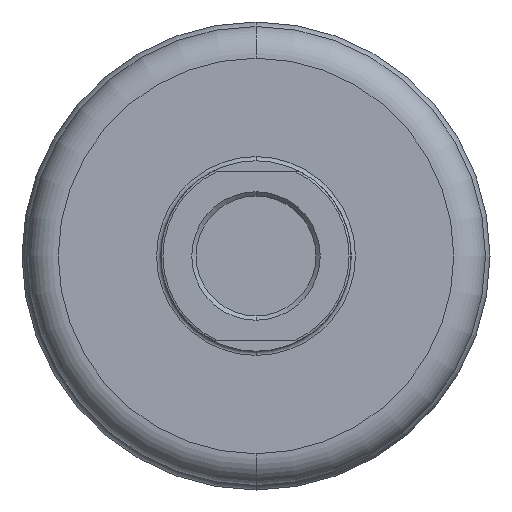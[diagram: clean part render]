
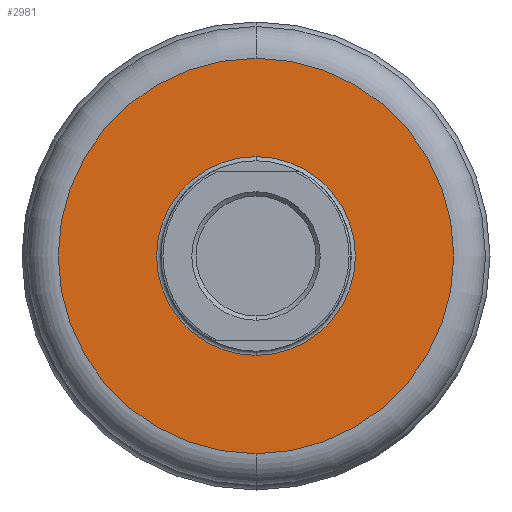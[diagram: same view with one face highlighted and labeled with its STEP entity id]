
A CAD part, front view. The second image highlights one B-rep face of the part: STEP entity #2981.
In plain terms, the highlighted planar face has unit normal (0, -1, 0).
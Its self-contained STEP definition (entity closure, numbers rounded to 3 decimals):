
#86 = VERTEX_POINT ( 'NONE', #7090 ) ;
#374 = DIRECTION ( 'NONE',  ( 0., 1., 0. ) ) ;
#484 = CARTESIAN_POINT ( 'NONE',  ( -47., 20., 0. ) ) ;
#552 = ORIENTED_EDGE ( 'NONE', *, *, #1165, .F. ) ;
#588 = ORIENTED_EDGE ( 'NONE', *, *, #2382, .T. ) ;
#614 = CARTESIAN_POINT ( 'NONE',  ( 0., 20., 0. ) ) ;
#978 = AXIS2_PLACEMENT_3D ( 'NONE', #3168, #2329, #6965 ) ;
#1165 = EDGE_CURVE ( 'NONE', #2860, #5279, #2038, .T. ) ;
#1711 = DIRECTION ( 'NONE',  ( 0., -1., 0. ) ) ;
#2038 = CIRCLE ( 'NONE', #3211, 93.5 ) ;
#2329 = DIRECTION ( 'NONE',  ( 0., 1., 0. ) ) ;
#2382 = EDGE_CURVE ( 'NONE', #86, #3681, #4190, .T. ) ;
#2591 = CARTESIAN_POINT ( 'NONE',  ( 0., 20., -47. ) ) ;
#2620 = ORIENTED_EDGE ( 'NONE', *, *, #4900, .F. ) ;
#2748 = CARTESIAN_POINT ( 'NONE',  ( 0., 20., -93.5 ) ) ;
#2860 = VERTEX_POINT ( 'NONE', #2748 ) ;
#2945 = DIRECTION ( 'NONE',  ( 0., 0., 1. ) ) ;
#2981 = ADVANCED_FACE ( 'NONE', ( #5484, #3158 ), #3306, .T. ) ;
#3158 = FACE_OUTER_BOUND ( 'NONE', #6555, .T. ) ;
#3168 = CARTESIAN_POINT ( 'NONE',  ( 0., 20., 0. ) ) ;
#3211 = AXIS2_PLACEMENT_3D ( 'NONE', #3358, #3467, #2945 ) ;
#3306 = PLANE ( 'NONE',  #4313 ) ;
#3358 = CARTESIAN_POINT ( 'NONE',  ( 0., 20., 0. ) ) ;
#3369 = DIRECTION ( 'NONE',  ( 0., 1., 0. ) ) ;
#3388 = EDGE_CURVE ( 'NONE', #3681, #86, #4201, .T. ) ;
#3421 = CIRCLE ( 'NONE', #4012, 93.5 ) ;
#3467 = DIRECTION ( 'NONE',  ( 0., 1., 0. ) ) ;
#3681 = VERTEX_POINT ( 'NONE', #2591 ) ;
#3788 = CARTESIAN_POINT ( 'NONE',  ( 0., 20., 93.5 ) ) ;
#4012 = AXIS2_PLACEMENT_3D ( 'NONE', #5489, #374, #7040 ) ;
#4190 = CIRCLE ( 'NONE', #978, 47. ) ;
#4201 = CIRCLE ( 'NONE', #6105, 47. ) ;
#4313 = AXIS2_PLACEMENT_3D ( 'NONE', #484, #1711, #5136 ) ;
#4565 = DIRECTION ( 'NONE',  ( 0., 0., 1. ) ) ;
#4900 = EDGE_CURVE ( 'NONE', #5279, #2860, #3421, .T. ) ;
#5136 = DIRECTION ( 'NONE',  ( 0., 0., -1. ) ) ;
#5279 = VERTEX_POINT ( 'NONE', #3788 ) ;
#5484 = FACE_BOUND ( 'NONE', #6710, .T. ) ;
#5489 = CARTESIAN_POINT ( 'NONE',  ( 0., 20., 0. ) ) ;
#6080 = ORIENTED_EDGE ( 'NONE', *, *, #3388, .T. ) ;
#6105 = AXIS2_PLACEMENT_3D ( 'NONE', #614, #3369, #4565 ) ;
#6555 = EDGE_LOOP ( 'NONE', ( #2620, #552 ) ) ;
#6710 = EDGE_LOOP ( 'NONE', ( #588, #6080 ) ) ;
#6965 = DIRECTION ( 'NONE',  ( 0., 0., 1. ) ) ;
#7040 = DIRECTION ( 'NONE',  ( 0., 0., 1. ) ) ;
#7090 = CARTESIAN_POINT ( 'NONE',  ( 0., 20., 47. ) ) ;
